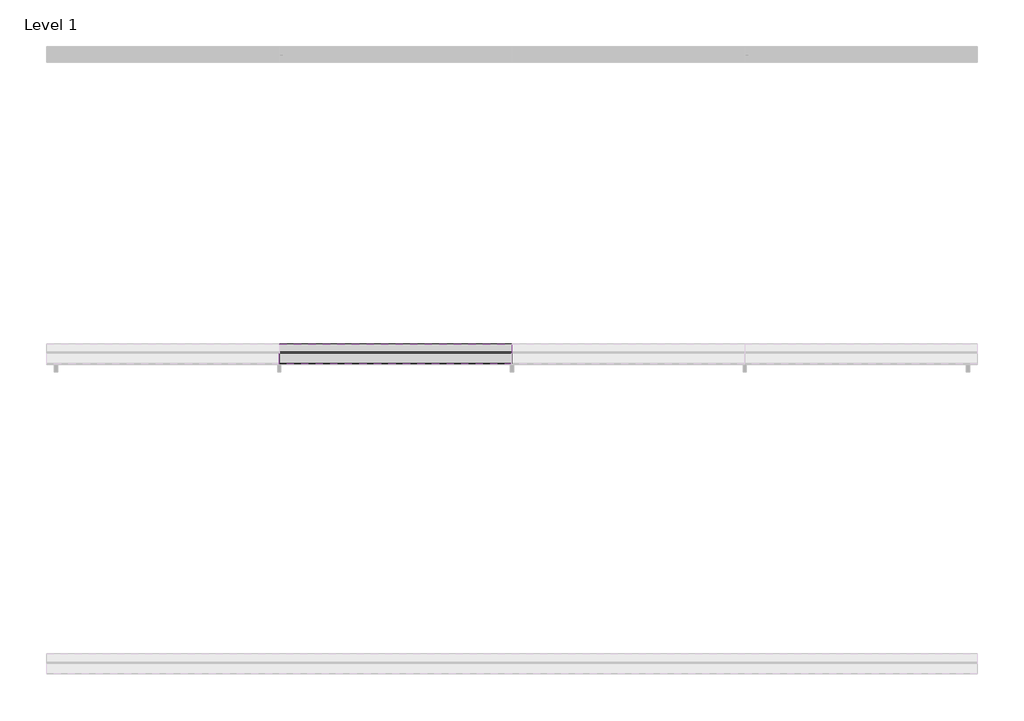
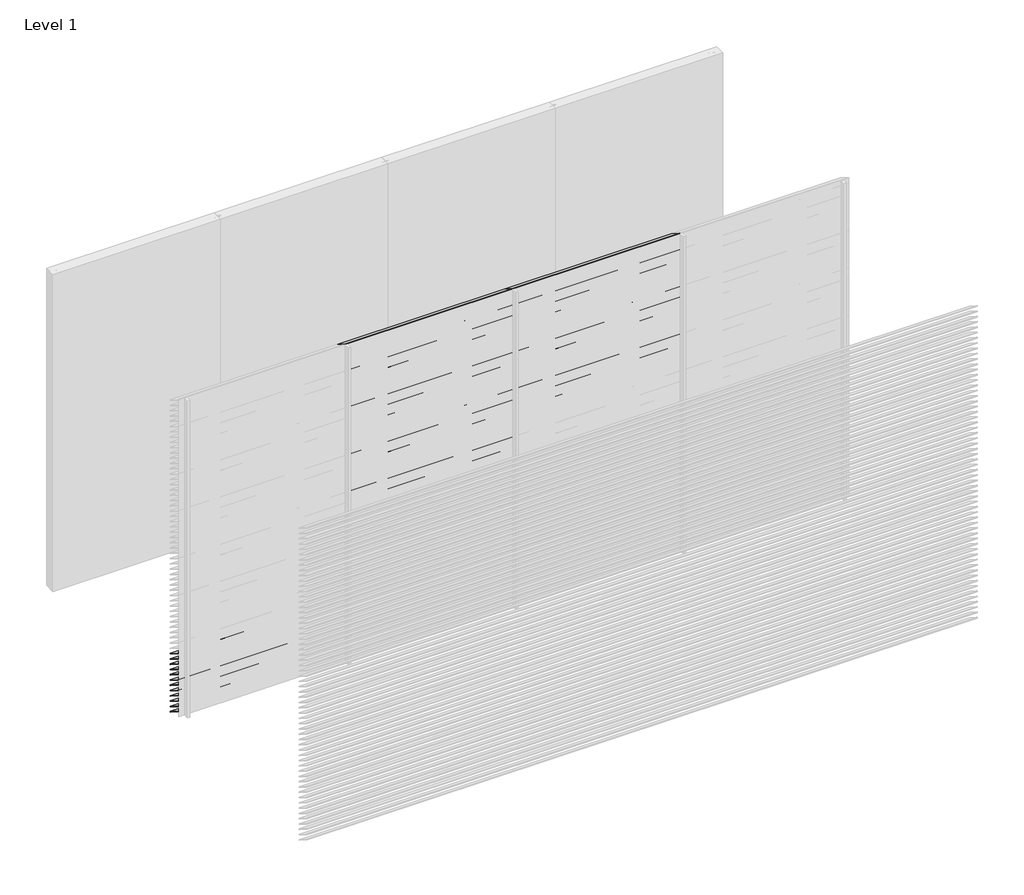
# One storey, part 9 of 13: 96 proxies.
"""IFC4 building model written with IfcOpenShell, lengths in millimetres."""

from ifc_helpers import new_model, si_unit, frame, origin, place, context, project, spatial, polyline, outline, extrude, element, save

model = new_model("IFC4")

# Units and contexts
model_context = context("Model", 3, world=origin())
ifc_project = project(units=[si_unit("LENGTHUNIT", "METRE", prefix="MILLI")], contexts=[model_context])

# Site, building, storey
site = spatial("IfcSite", under=ifc_project)
building = spatial("IfcBuilding", under=site)
storey = spatial("IfcBuildingStorey", under=building, Name="Level 1", Elevation=0.0)

# Proxies
placement = place(None, origin())
element("IfcBuildingElementProxy", 1, Name="Wall Sweeps", at=placement, inside=storey, context=model_context, shape_type="SweptSolid", body=[
    extrude(outline(polyline([(-5995.0, 600.0), (-5995.0, 598.0), (-5868.0, 519.0), (-5868.0, 513.0), (-5997.0, 593.2440945), (-5997.0, 600.0), (-5995.0, 600.0)])), frame((0.0, 0.0, 0.0), z_axis=(1.0, 0.0, 0.0), x_axis=(0.0, 1.0, 0.0)), (0.0, 0.0, 1.0), 1500.0),
])
element("IfcBuildingElementProxy", 2, Name="Wall Sweeps", at=placement, inside=storey, context=model_context, shape_type="SweptSolid", body=[
    extrude(outline(polyline([(-5995.0, 550.0), (-5995.0, 548.0), (-5868.0, 469.0), (-5868.0, 463.0), (-5997.0, 543.2440945), (-5997.0, 550.0), (-5995.0, 550.0)])), frame((0.0, 0.0, 0.0), z_axis=(1.0, 0.0, 0.0), x_axis=(0.0, 1.0, 0.0)), (0.0, 0.0, 1.0), 1500.0),
])
element("IfcBuildingElementProxy", 3, Name="Wall Sweeps", at=placement, inside=storey, context=model_context, shape_type="SweptSolid", body=[
    extrude(outline(polyline([(-5995.0, 500.0), (-5995.0, 498.0), (-5868.0, 419.0), (-5868.0, 413.0), (-5997.0, 493.2440945), (-5997.0, 500.0), (-5995.0, 500.0)])), frame((0.0, 0.0, 0.0), z_axis=(1.0, 0.0, 0.0), x_axis=(0.0, 1.0, 0.0)), (0.0, 0.0, 1.0), 1500.0),
])
element("IfcBuildingElementProxy", 4, Name="Wall Sweeps", at=placement, inside=storey, context=model_context, shape_type="SweptSolid", body=[
    extrude(outline(polyline([(-5995.0, 450.0), (-5995.0, 448.0), (-5868.0, 369.0), (-5868.0, 363.0), (-5997.0, 443.2440945), (-5997.0, 450.0), (-5995.0, 450.0)])), frame((0.0, 0.0, 0.0), z_axis=(1.0, 0.0, 0.0), x_axis=(0.0, 1.0, 0.0)), (0.0, 0.0, 1.0), 1500.0),
])
element("IfcBuildingElementProxy", 5, Name="Wall Sweeps", at=placement, inside=storey, context=model_context, shape_type="SweptSolid", body=[
    extrude(outline(polyline([(-5995.0, 400.0), (-5995.0, 398.0), (-5868.0, 319.0), (-5868.0, 313.0), (-5997.0, 393.2440945), (-5997.0, 400.0), (-5995.0, 400.0)])), frame((0.0, 0.0, 0.0), z_axis=(1.0, 0.0, 0.0), x_axis=(0.0, 1.0, 0.0)), (0.0, 0.0, 1.0), 1500.0),
])
element("IfcBuildingElementProxy", 6, Name="Wall Sweeps", at=placement, inside=storey, context=model_context, shape_type="SweptSolid", body=[
    extrude(outline(polyline([(-5995.0, 350.0), (-5995.0, 348.0), (-5868.0, 269.0), (-5868.0, 263.0), (-5997.0, 343.2440945), (-5997.0, 350.0), (-5995.0, 350.0)])), frame((0.0, 0.0, 0.0), z_axis=(1.0, 0.0, 0.0), x_axis=(0.0, 1.0, 0.0)), (0.0, 0.0, 1.0), 1500.0),
])
element("IfcBuildingElementProxy", 7, Name="Wall Sweeps", at=placement, inside=storey, context=model_context, shape_type="SweptSolid", body=[
    extrude(outline(polyline([(-5995.0, 300.0), (-5995.0, 298.0), (-5868.0, 219.0), (-5868.0, 213.0), (-5997.0, 293.2440945), (-5997.0, 300.0), (-5995.0, 300.0)])), frame((0.0, 0.0, 0.0), z_axis=(1.0, 0.0, 0.0), x_axis=(0.0, 1.0, 0.0)), (0.0, 0.0, 1.0), 1500.0),
])
element("IfcBuildingElementProxy", 8, Name="Wall Sweeps", at=placement, inside=storey, context=model_context, shape_type="SweptSolid", body=[
    extrude(outline(polyline([(-5995.0, 250.0), (-5995.0, 248.0), (-5868.0, 169.0), (-5868.0, 163.0), (-5997.0, 243.2440945), (-5997.0, 250.0), (-5995.0, 250.0)])), frame((0.0, 0.0, 0.0), z_axis=(1.0, 0.0, 0.0), x_axis=(0.0, 1.0, 0.0)), (0.0, 0.0, 1.0), 1500.0),
])
element("IfcBuildingElementProxy", 9, Name="Wall Sweeps", at=placement, inside=storey, context=model_context, shape_type="SweptSolid", body=[
    extrude(outline(polyline([(-5995.0, 200.0), (-5995.0, 198.0), (-5868.0, 119.0), (-5868.0, 113.0), (-5997.0, 193.2440945), (-5997.0, 200.0), (-5995.0, 200.0)])), frame((0.0, 0.0, 0.0), z_axis=(1.0, 0.0, 0.0), x_axis=(0.0, 1.0, 0.0)), (0.0, 0.0, 1.0), 1500.0),
])
element("IfcBuildingElementProxy", 10, Name="Wall Sweeps", at=placement, inside=storey, context=model_context, shape_type="SweptSolid", body=[
    extrude(outline(polyline([(-5995.0, 150.0), (-5995.0, 148.0), (-5868.0, 69.0), (-5868.0, 63.0), (-5997.0, 143.2440945), (-5997.0, 150.0), (-5995.0, 150.0)])), frame((0.0, 0.0, 0.0), z_axis=(1.0, 0.0, 0.0), x_axis=(0.0, 1.0, 0.0)), (0.0, 0.0, 1.0), 1500.0),
])
element("IfcBuildingElementProxy", 11, Name="Wall Sweeps", at=placement, inside=storey, context=model_context, shape_type="SweptSolid", body=[
    extrude(outline(polyline([(-5995.0, 100.0), (-5995.0, 98.0), (-5868.0, 19.0), (-5868.0, 13.0), (-5997.0, 93.2440945), (-5997.0, 100.0), (-5995.0, 100.0)])), frame((0.0, 0.0, 0.0), z_axis=(1.0, 0.0, 0.0), x_axis=(0.0, 1.0, 0.0)), (0.0, 0.0, 1.0), 1500.0),
])
element("IfcBuildingElementProxy", 12, Name="Wall Sweeps", at=placement, inside=storey, context=model_context, shape_type="SweptSolid", body=[
    extrude(outline(polyline([(-5995.0, 50.0), (-5995.0, 48.0), (-5868.0, -31.0), (-5868.0, -37.0), (-5997.0, 43.2440945), (-5997.0, 50.0), (-5995.0, 50.0)])), frame((0.0, 0.0, 0.0), z_axis=(1.0, 0.0, 0.0), x_axis=(0.0, 1.0, 0.0)), (0.0, 0.0, 1.0), 1500.0),
])
element("IfcBuildingElementProxy", 13, Name="Wall Sweeps", at=placement, inside=storey, context=model_context, shape_type="SweptSolid", body=[
    extrude(outline(polyline([(-5995.0, 3000.0), (-5995.0, 2998.0), (-5868.0, 2919.0), (-5868.0, 2913.0), (-5997.0, 2993.2440945), (-5997.0, 3000.0), (-5995.0, 3000.0)])), frame((1500.0, 0.0, 0.0), z_axis=(1.0, 0.0, 0.0), x_axis=(0.0, 1.0, 0.0)), (0.0, 0.0, 1.0), 1500.0),
])
element("IfcBuildingElementProxy", 14, Name="Wall Sweeps", at=placement, inside=storey, context=model_context, shape_type="SweptSolid", body=[
    extrude(outline(polyline([(-5995.0, 2950.0), (-5995.0, 2948.0), (-5868.0, 2869.0), (-5868.0, 2863.0), (-5997.0, 2943.2440945), (-5997.0, 2950.0), (-5995.0, 2950.0)])), frame((1500.0, 0.0, 0.0), z_axis=(1.0, 0.0, 0.0), x_axis=(0.0, 1.0, 0.0)), (0.0, 0.0, 1.0), 1500.0),
])
element("IfcBuildingElementProxy", 15, Name="Wall Sweeps", at=placement, inside=storey, context=model_context, shape_type="SweptSolid", body=[
    extrude(outline(polyline([(-5995.0, 2900.0), (-5995.0, 2898.0), (-5868.0, 2819.0), (-5868.0, 2813.0), (-5997.0, 2893.2440945), (-5997.0, 2900.0), (-5995.0, 2900.0)])), frame((1500.0, 0.0, 0.0), z_axis=(1.0, 0.0, 0.0), x_axis=(0.0, 1.0, 0.0)), (0.0, 0.0, 1.0), 1500.0),
])
element("IfcBuildingElementProxy", 16, Name="Wall Sweeps", at=placement, inside=storey, context=model_context, shape_type="SweptSolid", body=[
    extrude(outline(polyline([(-5995.0, 2850.0), (-5995.0, 2848.0), (-5868.0, 2769.0), (-5868.0, 2763.0), (-5997.0, 2843.2440945), (-5997.0, 2850.0), (-5995.0, 2850.0)])), frame((1500.0, 0.0, 0.0), z_axis=(1.0, 0.0, 0.0), x_axis=(0.0, 1.0, 0.0)), (0.0, 0.0, 1.0), 1500.0),
])
element("IfcBuildingElementProxy", 17, Name="Wall Sweeps", at=placement, inside=storey, context=model_context, shape_type="SweptSolid", body=[
    extrude(outline(polyline([(-5995.0, 2800.0), (-5995.0, 2798.0), (-5868.0, 2719.0), (-5868.0, 2713.0), (-5997.0, 2793.2440945), (-5997.0, 2800.0), (-5995.0, 2800.0)])), frame((1500.0, 0.0, 0.0), z_axis=(1.0, 0.0, 0.0), x_axis=(0.0, 1.0, 0.0)), (0.0, 0.0, 1.0), 1500.0),
])
element("IfcBuildingElementProxy", 18, Name="Wall Sweeps", at=placement, inside=storey, context=model_context, shape_type="SweptSolid", body=[
    extrude(outline(polyline([(-5995.0, 2750.0), (-5995.0, 2748.0), (-5868.0, 2669.0), (-5868.0, 2663.0), (-5997.0, 2743.2440945), (-5997.0, 2750.0), (-5995.0, 2750.0)])), frame((1500.0, 0.0, 0.0), z_axis=(1.0, 0.0, 0.0), x_axis=(0.0, 1.0, 0.0)), (0.0, 0.0, 1.0), 1500.0),
])
element("IfcBuildingElementProxy", 19, Name="Wall Sweeps", at=placement, inside=storey, context=model_context, shape_type="SweptSolid", body=[
    extrude(outline(polyline([(-5995.0, 2700.0), (-5995.0, 2698.0), (-5868.0, 2619.0), (-5868.0, 2613.0), (-5997.0, 2693.2440945), (-5997.0, 2700.0), (-5995.0, 2700.0)])), frame((1500.0, 0.0, 0.0), z_axis=(1.0, 0.0, 0.0), x_axis=(0.0, 1.0, 0.0)), (0.0, 0.0, 1.0), 1500.0),
])
element("IfcBuildingElementProxy", 20, Name="Wall Sweeps", at=placement, inside=storey, context=model_context, shape_type="SweptSolid", body=[
    extrude(outline(polyline([(-5995.0, 2650.0), (-5995.0, 2648.0), (-5868.0, 2569.0), (-5868.0, 2563.0), (-5997.0, 2643.2440945), (-5997.0, 2650.0), (-5995.0, 2650.0)])), frame((1500.0, 0.0, 0.0), z_axis=(1.0, 0.0, 0.0), x_axis=(0.0, 1.0, 0.0)), (0.0, 0.0, 1.0), 1500.0),
])
element("IfcBuildingElementProxy", 21, Name="Wall Sweeps", at=placement, inside=storey, context=model_context, shape_type="SweptSolid", body=[
    extrude(outline(polyline([(-5995.0, 2600.0), (-5995.0, 2598.0), (-5868.0, 2519.0), (-5868.0, 2513.0), (-5997.0, 2593.2440945), (-5997.0, 2600.0), (-5995.0, 2600.0)])), frame((1500.0, 0.0, 0.0), z_axis=(1.0, 0.0, 0.0), x_axis=(0.0, 1.0, 0.0)), (0.0, 0.0, 1.0), 1500.0),
])
element("IfcBuildingElementProxy", 22, Name="Wall Sweeps", at=placement, inside=storey, context=model_context, shape_type="SweptSolid", body=[
    extrude(outline(polyline([(-5995.0, 2550.0), (-5995.0, 2548.0), (-5868.0, 2469.0), (-5868.0, 2463.0), (-5997.0, 2543.2440945), (-5997.0, 2550.0), (-5995.0, 2550.0)])), frame((1500.0, 0.0, 0.0), z_axis=(1.0, 0.0, 0.0), x_axis=(0.0, 1.0, 0.0)), (0.0, 0.0, 1.0), 1500.0),
])
element("IfcBuildingElementProxy", 23, Name="Wall Sweeps", at=placement, inside=storey, context=model_context, shape_type="SweptSolid", body=[
    extrude(outline(polyline([(-5995.0, 2500.0), (-5995.0, 2498.0), (-5868.0, 2419.0), (-5868.0, 2413.0), (-5997.0, 2493.2440945), (-5997.0, 2500.0), (-5995.0, 2500.0)])), frame((1500.0, 0.0, 0.0), z_axis=(1.0, 0.0, 0.0), x_axis=(0.0, 1.0, 0.0)), (0.0, 0.0, 1.0), 1500.0),
])
element("IfcBuildingElementProxy", 24, Name="Wall Sweeps", at=placement, inside=storey, context=model_context, shape_type="SweptSolid", body=[
    extrude(outline(polyline([(-5995.0, 2450.0), (-5995.0, 2448.0), (-5868.0, 2369.0), (-5868.0, 2363.0), (-5997.0, 2443.2440945), (-5997.0, 2450.0), (-5995.0, 2450.0)])), frame((1500.0, 0.0, 0.0), z_axis=(1.0, 0.0, 0.0), x_axis=(0.0, 1.0, 0.0)), (0.0, 0.0, 1.0), 1500.0),
])
element("IfcBuildingElementProxy", 25, Name="Wall Sweeps", at=placement, inside=storey, context=model_context, shape_type="SweptSolid", body=[
    extrude(outline(polyline([(-5995.0, 2400.0), (-5995.0, 2398.0), (-5868.0, 2319.0), (-5868.0, 2313.0), (-5997.0, 2393.2440945), (-5997.0, 2400.0), (-5995.0, 2400.0)])), frame((1500.0, 0.0, 0.0), z_axis=(1.0, 0.0, 0.0), x_axis=(0.0, 1.0, 0.0)), (0.0, 0.0, 1.0), 1500.0),
])
element("IfcBuildingElementProxy", 26, Name="Wall Sweeps", at=placement, inside=storey, context=model_context, shape_type="SweptSolid", body=[
    extrude(outline(polyline([(-5995.0, 2350.0), (-5995.0, 2348.0), (-5868.0, 2269.0), (-5868.0, 2263.0), (-5997.0, 2343.2440945), (-5997.0, 2350.0), (-5995.0, 2350.0)])), frame((1500.0, 0.0, 0.0), z_axis=(1.0, 0.0, 0.0), x_axis=(0.0, 1.0, 0.0)), (0.0, 0.0, 1.0), 1500.0),
])
element("IfcBuildingElementProxy", 27, Name="Wall Sweeps", at=placement, inside=storey, context=model_context, shape_type="SweptSolid", body=[
    extrude(outline(polyline([(-5995.0, 2300.0), (-5995.0, 2298.0), (-5868.0, 2219.0), (-5868.0, 2213.0), (-5997.0, 2293.2440945), (-5997.0, 2300.0), (-5995.0, 2300.0)])), frame((1500.0, 0.0, 0.0), z_axis=(1.0, 0.0, 0.0), x_axis=(0.0, 1.0, 0.0)), (0.0, 0.0, 1.0), 1500.0),
])
element("IfcBuildingElementProxy", 28, Name="Wall Sweeps", at=placement, inside=storey, context=model_context, shape_type="SweptSolid", body=[
    extrude(outline(polyline([(-5995.0, 2250.0), (-5995.0, 2248.0), (-5868.0, 2169.0), (-5868.0, 2163.0), (-5997.0, 2243.2440945), (-5997.0, 2250.0), (-5995.0, 2250.0)])), frame((1500.0, 0.0, 0.0), z_axis=(1.0, 0.0, 0.0), x_axis=(0.0, 1.0, 0.0)), (0.0, 0.0, 1.0), 1500.0),
])
element("IfcBuildingElementProxy", 29, Name="Wall Sweeps", at=placement, inside=storey, context=model_context, shape_type="SweptSolid", body=[
    extrude(outline(polyline([(-5995.0, 2200.0), (-5995.0, 2198.0), (-5868.0, 2119.0), (-5868.0, 2113.0), (-5997.0, 2193.2440945), (-5997.0, 2200.0), (-5995.0, 2200.0)])), frame((1500.0, 0.0, 0.0), z_axis=(1.0, 0.0, 0.0), x_axis=(0.0, 1.0, 0.0)), (0.0, 0.0, 1.0), 1500.0),
])
element("IfcBuildingElementProxy", 30, Name="Wall Sweeps", at=placement, inside=storey, context=model_context, shape_type="SweptSolid", body=[
    extrude(outline(polyline([(-5995.0, 2150.0), (-5995.0, 2148.0), (-5868.0, 2069.0), (-5868.0, 2063.0), (-5997.0, 2143.2440945), (-5997.0, 2150.0), (-5995.0, 2150.0)])), frame((1500.0, 0.0, 0.0), z_axis=(1.0, 0.0, 0.0), x_axis=(0.0, 1.0, 0.0)), (0.0, 0.0, 1.0), 1500.0),
])
element("IfcBuildingElementProxy", 31, Name="Wall Sweeps", at=placement, inside=storey, context=model_context, shape_type="SweptSolid", body=[
    extrude(outline(polyline([(-5995.0, 2100.0), (-5995.0, 2098.0), (-5868.0, 2019.0), (-5868.0, 2013.0), (-5997.0, 2093.2440945), (-5997.0, 2100.0), (-5995.0, 2100.0)])), frame((1500.0, 0.0, 0.0), z_axis=(1.0, 0.0, 0.0), x_axis=(0.0, 1.0, 0.0)), (0.0, 0.0, 1.0), 1500.0),
])
element("IfcBuildingElementProxy", 32, Name="Wall Sweeps", at=placement, inside=storey, context=model_context, shape_type="SweptSolid", body=[
    extrude(outline(polyline([(-5995.0, 2050.0), (-5995.0, 2048.0), (-5868.0, 1969.0), (-5868.0, 1963.0), (-5997.0, 2043.2440945), (-5997.0, 2050.0), (-5995.0, 2050.0)])), frame((1500.0, 0.0, 0.0), z_axis=(1.0, 0.0, 0.0), x_axis=(0.0, 1.0, 0.0)), (0.0, 0.0, 1.0), 1500.0),
])
element("IfcBuildingElementProxy", 33, Name="Wall Sweeps", at=placement, inside=storey, context=model_context, shape_type="SweptSolid", body=[
    extrude(outline(polyline([(-5995.0, 2000.0), (-5995.0, 1998.0), (-5868.0, 1919.0), (-5868.0, 1913.0), (-5997.0, 1993.2440945), (-5997.0, 2000.0), (-5995.0, 2000.0)])), frame((1500.0, 0.0, 0.0), z_axis=(1.0, 0.0, 0.0), x_axis=(0.0, 1.0, 0.0)), (0.0, 0.0, 1.0), 1500.0),
])
element("IfcBuildingElementProxy", 34, Name="Wall Sweeps", at=placement, inside=storey, context=model_context, shape_type="SweptSolid", body=[
    extrude(outline(polyline([(-5995.0, 1950.0), (-5995.0, 1948.0), (-5868.0, 1869.0), (-5868.0, 1863.0), (-5997.0, 1943.2440945), (-5997.0, 1950.0), (-5995.0, 1950.0)])), frame((1500.0, 0.0, 0.0), z_axis=(1.0, 0.0, 0.0), x_axis=(0.0, 1.0, 0.0)), (0.0, 0.0, 1.0), 1500.0),
])
element("IfcBuildingElementProxy", 35, Name="Wall Sweeps", at=placement, inside=storey, context=model_context, shape_type="SweptSolid", body=[
    extrude(outline(polyline([(-5995.0, 1900.0), (-5995.0, 1898.0), (-5868.0, 1819.0), (-5868.0, 1813.0), (-5997.0, 1893.2440945), (-5997.0, 1900.0), (-5995.0, 1900.0)])), frame((1500.0, 0.0, 0.0), z_axis=(1.0, 0.0, 0.0), x_axis=(0.0, 1.0, 0.0)), (0.0, 0.0, 1.0), 1500.0),
])
element("IfcBuildingElementProxy", 36, Name="Wall Sweeps", at=placement, inside=storey, context=model_context, shape_type="SweptSolid", body=[
    extrude(outline(polyline([(-5995.0, 1850.0), (-5995.0, 1848.0), (-5868.0, 1769.0), (-5868.0, 1763.0), (-5997.0, 1843.2440945), (-5997.0, 1850.0), (-5995.0, 1850.0)])), frame((1500.0, 0.0, 0.0), z_axis=(1.0, 0.0, 0.0), x_axis=(0.0, 1.0, 0.0)), (0.0, 0.0, 1.0), 1500.0),
])
element("IfcBuildingElementProxy", 37, Name="Wall Sweeps", at=placement, inside=storey, context=model_context, shape_type="SweptSolid", body=[
    extrude(outline(polyline([(-5995.0, 1800.0), (-5995.0, 1798.0), (-5868.0, 1719.0), (-5868.0, 1713.0), (-5997.0, 1793.2440945), (-5997.0, 1800.0), (-5995.0, 1800.0)])), frame((1500.0, 0.0, 0.0), z_axis=(1.0, 0.0, 0.0), x_axis=(0.0, 1.0, 0.0)), (0.0, 0.0, 1.0), 1500.0),
])
element("IfcBuildingElementProxy", 38, Name="Wall Sweeps", at=placement, inside=storey, context=model_context, shape_type="SweptSolid", body=[
    extrude(outline(polyline([(-5995.0, 1750.0), (-5995.0, 1748.0), (-5868.0, 1669.0), (-5868.0, 1663.0), (-5997.0, 1743.2440945), (-5997.0, 1750.0), (-5995.0, 1750.0)])), frame((1500.0, 0.0, 0.0), z_axis=(1.0, 0.0, 0.0), x_axis=(0.0, 1.0, 0.0)), (0.0, 0.0, 1.0), 1500.0),
])
element("IfcBuildingElementProxy", 39, Name="Wall Sweeps", at=placement, inside=storey, context=model_context, shape_type="SweptSolid", body=[
    extrude(outline(polyline([(-5995.0, 1700.0), (-5995.0, 1698.0), (-5868.0, 1619.0), (-5868.0, 1613.0), (-5997.0, 1693.2440945), (-5997.0, 1700.0), (-5995.0, 1700.0)])), frame((1500.0, 0.0, 0.0), z_axis=(1.0, 0.0, 0.0), x_axis=(0.0, 1.0, 0.0)), (0.0, 0.0, 1.0), 1500.0),
])
element("IfcBuildingElementProxy", 40, Name="Wall Sweeps", at=placement, inside=storey, context=model_context, shape_type="SweptSolid", body=[
    extrude(outline(polyline([(-5995.0, 1650.0), (-5995.0, 1648.0), (-5868.0, 1569.0), (-5868.0, 1563.0), (-5997.0, 1643.2440945), (-5997.0, 1650.0), (-5995.0, 1650.0)])), frame((1500.0, 0.0, 0.0), z_axis=(1.0, 0.0, 0.0), x_axis=(0.0, 1.0, 0.0)), (0.0, 0.0, 1.0), 1500.0),
])
element("IfcBuildingElementProxy", 41, Name="Wall Sweeps", at=placement, inside=storey, context=model_context, shape_type="SweptSolid", body=[
    extrude(outline(polyline([(-5995.0, 1600.0), (-5995.0, 1598.0), (-5868.0, 1519.0), (-5868.0, 1513.0), (-5997.0, 1593.2440945), (-5997.0, 1600.0), (-5995.0, 1600.0)])), frame((1500.0, 0.0, 0.0), z_axis=(1.0, 0.0, 0.0), x_axis=(0.0, 1.0, 0.0)), (0.0, 0.0, 1.0), 1500.0),
])
element("IfcBuildingElementProxy", 42, Name="Wall Sweeps", at=placement, inside=storey, context=model_context, shape_type="SweptSolid", body=[
    extrude(outline(polyline([(-5995.0, 1550.0), (-5995.0, 1548.0), (-5868.0, 1469.0), (-5868.0, 1463.0), (-5997.0, 1543.2440945), (-5997.0, 1550.0), (-5995.0, 1550.0)])), frame((1500.0, 0.0, 0.0), z_axis=(1.0, 0.0, 0.0), x_axis=(0.0, 1.0, 0.0)), (0.0, 0.0, 1.0), 1500.0),
])
element("IfcBuildingElementProxy", 43, Name="Wall Sweeps", at=placement, inside=storey, context=model_context, shape_type="SweptSolid", body=[
    extrude(outline(polyline([(-5995.0, 1500.0), (-5995.0, 1498.0), (-5868.0, 1419.0), (-5868.0, 1413.0), (-5997.0, 1493.2440945), (-5997.0, 1500.0), (-5995.0, 1500.0)])), frame((1500.0, 0.0, 0.0), z_axis=(1.0, 0.0, 0.0), x_axis=(0.0, 1.0, 0.0)), (0.0, 0.0, 1.0), 1500.0),
])
element("IfcBuildingElementProxy", 44, Name="Wall Sweeps", at=placement, inside=storey, context=model_context, shape_type="SweptSolid", body=[
    extrude(outline(polyline([(-5995.0, 1450.0), (-5995.0, 1448.0), (-5868.0, 1369.0), (-5868.0, 1363.0), (-5997.0, 1443.2440945), (-5997.0, 1450.0), (-5995.0, 1450.0)])), frame((1500.0, 0.0, 0.0), z_axis=(1.0, 0.0, 0.0), x_axis=(0.0, 1.0, 0.0)), (0.0, 0.0, 1.0), 1500.0),
])
element("IfcBuildingElementProxy", 45, Name="Wall Sweeps", at=placement, inside=storey, context=model_context, shape_type="SweptSolid", body=[
    extrude(outline(polyline([(-5995.0, 1400.0), (-5995.0, 1398.0), (-5868.0, 1319.0), (-5868.0, 1313.0), (-5997.0, 1393.2440945), (-5997.0, 1400.0), (-5995.0, 1400.0)])), frame((1500.0, 0.0, 0.0), z_axis=(1.0, 0.0, 0.0), x_axis=(0.0, 1.0, 0.0)), (0.0, 0.0, 1.0), 1500.0),
])
element("IfcBuildingElementProxy", 46, Name="Wall Sweeps", at=placement, inside=storey, context=model_context, shape_type="SweptSolid", body=[
    extrude(outline(polyline([(-5995.0, 1350.0), (-5995.0, 1348.0), (-5868.0, 1269.0), (-5868.0, 1263.0), (-5997.0, 1343.2440945), (-5997.0, 1350.0), (-5995.0, 1350.0)])), frame((1500.0, 0.0, 0.0), z_axis=(1.0, 0.0, 0.0), x_axis=(0.0, 1.0, 0.0)), (0.0, 0.0, 1.0), 1500.0),
])
element("IfcBuildingElementProxy", 47, Name="Wall Sweeps", at=placement, inside=storey, context=model_context, shape_type="SweptSolid", body=[
    extrude(outline(polyline([(-5995.0, 1300.0), (-5995.0, 1298.0), (-5868.0, 1219.0), (-5868.0, 1213.0), (-5997.0, 1293.2440945), (-5997.0, 1300.0), (-5995.0, 1300.0)])), frame((1500.0, 0.0, 0.0), z_axis=(1.0, 0.0, 0.0), x_axis=(0.0, 1.0, 0.0)), (0.0, 0.0, 1.0), 1500.0),
])
element("IfcBuildingElementProxy", 48, Name="Wall Sweeps", at=placement, inside=storey, context=model_context, shape_type="SweptSolid", body=[
    extrude(outline(polyline([(-5995.0, 1250.0), (-5995.0, 1248.0), (-5868.0, 1169.0), (-5868.0, 1163.0), (-5997.0, 1243.2440945), (-5997.0, 1250.0), (-5995.0, 1250.0)])), frame((1500.0, 0.0, 0.0), z_axis=(1.0, 0.0, 0.0), x_axis=(0.0, 1.0, 0.0)), (0.0, 0.0, 1.0), 1500.0),
])
element("IfcBuildingElementProxy", 49, Name="Wall Sweeps", at=placement, inside=storey, context=model_context, shape_type="SweptSolid", body=[
    extrude(outline(polyline([(-5995.0, 1200.0), (-5995.0, 1198.0), (-5868.0, 1119.0), (-5868.0, 1113.0), (-5997.0, 1193.2440945), (-5997.0, 1200.0), (-5995.0, 1200.0)])), frame((1500.0, 0.0, 0.0), z_axis=(1.0, 0.0, 0.0), x_axis=(0.0, 1.0, 0.0)), (0.0, 0.0, 1.0), 1500.0),
])
element("IfcBuildingElementProxy", 50, Name="Wall Sweeps", at=placement, inside=storey, context=model_context, shape_type="SweptSolid", body=[
    extrude(outline(polyline([(-5995.0, 1150.0), (-5995.0, 1148.0), (-5868.0, 1069.0), (-5868.0, 1063.0), (-5997.0, 1143.2440945), (-5997.0, 1150.0), (-5995.0, 1150.0)])), frame((1500.0, 0.0, 0.0), z_axis=(1.0, 0.0, 0.0), x_axis=(0.0, 1.0, 0.0)), (0.0, 0.0, 1.0), 1500.0),
])
element("IfcBuildingElementProxy", 51, Name="Wall Sweeps", at=placement, inside=storey, context=model_context, shape_type="SweptSolid", body=[
    extrude(outline(polyline([(-5995.0, 1100.0), (-5995.0, 1098.0), (-5868.0, 1019.0), (-5868.0, 1013.0), (-5997.0, 1093.2440945), (-5997.0, 1100.0), (-5995.0, 1100.0)])), frame((1500.0, 0.0, 0.0), z_axis=(1.0, 0.0, 0.0), x_axis=(0.0, 1.0, 0.0)), (0.0, 0.0, 1.0), 1500.0),
])
element("IfcBuildingElementProxy", 52, Name="Wall Sweeps", at=placement, inside=storey, context=model_context, shape_type="SweptSolid", body=[
    extrude(outline(polyline([(-5995.0, 1050.0), (-5995.0, 1048.0), (-5868.0, 969.0), (-5868.0, 963.0), (-5997.0, 1043.2440945), (-5997.0, 1050.0), (-5995.0, 1050.0)])), frame((1500.0, 0.0, 0.0), z_axis=(1.0, 0.0, 0.0), x_axis=(0.0, 1.0, 0.0)), (0.0, 0.0, 1.0), 1500.0),
])
element("IfcBuildingElementProxy", 53, Name="Wall Sweeps", at=placement, inside=storey, context=model_context, shape_type="SweptSolid", body=[
    extrude(outline(polyline([(-5995.0, 1000.0), (-5995.0, 998.0), (-5868.0, 919.0), (-5868.0, 913.0), (-5997.0, 993.2440945), (-5997.0, 1000.0), (-5995.0, 1000.0)])), frame((1500.0, 0.0, 0.0), z_axis=(1.0, 0.0, 0.0), x_axis=(0.0, 1.0, 0.0)), (0.0, 0.0, 1.0), 1500.0),
])
element("IfcBuildingElementProxy", 54, Name="Wall Sweeps", at=placement, inside=storey, context=model_context, shape_type="SweptSolid", body=[
    extrude(outline(polyline([(-5995.0, 950.0), (-5995.0, 948.0), (-5868.0, 869.0), (-5868.0, 863.0), (-5997.0, 943.2440945), (-5997.0, 950.0), (-5995.0, 950.0)])), frame((1500.0, 0.0, 0.0), z_axis=(1.0, 0.0, 0.0), x_axis=(0.0, 1.0, 0.0)), (0.0, 0.0, 1.0), 1500.0),
])
element("IfcBuildingElementProxy", 55, Name="Wall Sweeps", at=placement, inside=storey, context=model_context, shape_type="SweptSolid", body=[
    extrude(outline(polyline([(-5995.0, 900.0), (-5995.0, 898.0), (-5868.0, 819.0), (-5868.0, 813.0), (-5997.0, 893.2440945), (-5997.0, 900.0), (-5995.0, 900.0)])), frame((1500.0, 0.0, 0.0), z_axis=(1.0, 0.0, 0.0), x_axis=(0.0, 1.0, 0.0)), (0.0, 0.0, 1.0), 1500.0),
])
element("IfcBuildingElementProxy", 56, Name="Wall Sweeps", at=placement, inside=storey, context=model_context, shape_type="SweptSolid", body=[
    extrude(outline(polyline([(-5995.0, 850.0), (-5995.0, 848.0), (-5868.0, 769.0), (-5868.0, 763.0), (-5997.0, 843.2440945), (-5997.0, 850.0), (-5995.0, 850.0)])), frame((1500.0, 0.0, 0.0), z_axis=(1.0, 0.0, 0.0), x_axis=(0.0, 1.0, 0.0)), (0.0, 0.0, 1.0), 1500.0),
])
element("IfcBuildingElementProxy", 57, Name="Wall Sweeps", at=placement, inside=storey, context=model_context, shape_type="SweptSolid", body=[
    extrude(outline(polyline([(-5995.0, 800.0), (-5995.0, 798.0), (-5868.0, 719.0), (-5868.0, 713.0), (-5997.0, 793.2440945), (-5997.0, 800.0), (-5995.0, 800.0)])), frame((1500.0, 0.0, 0.0), z_axis=(1.0, 0.0, 0.0), x_axis=(0.0, 1.0, 0.0)), (0.0, 0.0, 1.0), 1500.0),
])
element("IfcBuildingElementProxy", 58, Name="Wall Sweeps", at=placement, inside=storey, context=model_context, shape_type="SweptSolid", body=[
    extrude(outline(polyline([(-5995.0, 750.0), (-5995.0, 748.0), (-5868.0, 669.0), (-5868.0, 663.0), (-5997.0, 743.2440945), (-5997.0, 750.0), (-5995.0, 750.0)])), frame((1500.0, 0.0, 0.0), z_axis=(1.0, 0.0, 0.0), x_axis=(0.0, 1.0, 0.0)), (0.0, 0.0, 1.0), 1500.0),
])
element("IfcBuildingElementProxy", 59, Name="Wall Sweeps", at=placement, inside=storey, context=model_context, shape_type="SweptSolid", body=[
    extrude(outline(polyline([(-5995.0, 700.0), (-5995.0, 698.0), (-5868.0, 619.0), (-5868.0, 613.0), (-5997.0, 693.2440945), (-5997.0, 700.0), (-5995.0, 700.0)])), frame((1500.0, 0.0, 0.0), z_axis=(1.0, 0.0, 0.0), x_axis=(0.0, 1.0, 0.0)), (0.0, 0.0, 1.0), 1500.0),
])
element("IfcBuildingElementProxy", 60, Name="Wall Sweeps", at=placement, inside=storey, context=model_context, shape_type="SweptSolid", body=[
    extrude(outline(polyline([(-5995.0, 650.0), (-5995.0, 648.0), (-5868.0, 569.0), (-5868.0, 563.0), (-5997.0, 643.2440945), (-5997.0, 650.0), (-5995.0, 650.0)])), frame((1500.0, 0.0, 0.0), z_axis=(1.0, 0.0, 0.0), x_axis=(0.0, 1.0, 0.0)), (0.0, 0.0, 1.0), 1500.0),
])
element("IfcBuildingElementProxy", 61, Name="Wall Sweeps", at=placement, inside=storey, context=model_context, shape_type="SweptSolid", body=[
    extrude(outline(polyline([(-5995.0, 600.0), (-5995.0, 598.0), (-5868.0, 519.0), (-5868.0, 513.0), (-5997.0, 593.2440945), (-5997.0, 600.0), (-5995.0, 600.0)])), frame((1500.0, 0.0, 0.0), z_axis=(1.0, 0.0, 0.0), x_axis=(0.0, 1.0, 0.0)), (0.0, 0.0, 1.0), 1500.0),
])
element("IfcBuildingElementProxy", 62, Name="Wall Sweeps", at=placement, inside=storey, context=model_context, shape_type="SweptSolid", body=[
    extrude(outline(polyline([(-5995.0, 550.0), (-5995.0, 548.0), (-5868.0, 469.0), (-5868.0, 463.0), (-5997.0, 543.2440945), (-5997.0, 550.0), (-5995.0, 550.0)])), frame((1500.0, 0.0, 0.0), z_axis=(1.0, 0.0, 0.0), x_axis=(0.0, 1.0, 0.0)), (0.0, 0.0, 1.0), 1500.0),
])
element("IfcBuildingElementProxy", 63, Name="Wall Sweeps", at=placement, inside=storey, context=model_context, shape_type="SweptSolid", body=[
    extrude(outline(polyline([(-5995.0, 500.0), (-5995.0, 498.0), (-5868.0, 419.0), (-5868.0, 413.0), (-5997.0, 493.2440945), (-5997.0, 500.0), (-5995.0, 500.0)])), frame((1500.0, 0.0, 0.0), z_axis=(1.0, 0.0, 0.0), x_axis=(0.0, 1.0, 0.0)), (0.0, 0.0, 1.0), 1500.0),
])
element("IfcBuildingElementProxy", 64, Name="Wall Sweeps", at=placement, inside=storey, context=model_context, shape_type="SweptSolid", body=[
    extrude(outline(polyline([(-5995.0, 450.0), (-5995.0, 448.0), (-5868.0, 369.0), (-5868.0, 363.0), (-5997.0, 443.2440945), (-5997.0, 450.0), (-5995.0, 450.0)])), frame((1500.0, 0.0, 0.0), z_axis=(1.0, 0.0, 0.0), x_axis=(0.0, 1.0, 0.0)), (0.0, 0.0, 1.0), 1500.0),
])
element("IfcBuildingElementProxy", 65, Name="Wall Sweeps", at=placement, inside=storey, context=model_context, shape_type="SweptSolid", body=[
    extrude(outline(polyline([(-5995.0, 400.0), (-5995.0, 398.0), (-5868.0, 319.0), (-5868.0, 313.0), (-5997.0, 393.2440945), (-5997.0, 400.0), (-5995.0, 400.0)])), frame((1500.0, 0.0, 0.0), z_axis=(1.0, 0.0, 0.0), x_axis=(0.0, 1.0, 0.0)), (0.0, 0.0, 1.0), 1500.0),
])
element("IfcBuildingElementProxy", 66, Name="Wall Sweeps", at=placement, inside=storey, context=model_context, shape_type="SweptSolid", body=[
    extrude(outline(polyline([(-5995.0, 350.0), (-5995.0, 348.0), (-5868.0, 269.0), (-5868.0, 263.0), (-5997.0, 343.2440945), (-5997.0, 350.0), (-5995.0, 350.0)])), frame((1500.0, 0.0, 0.0), z_axis=(1.0, 0.0, 0.0), x_axis=(0.0, 1.0, 0.0)), (0.0, 0.0, 1.0), 1500.0),
])
element("IfcBuildingElementProxy", 67, Name="Wall Sweeps", at=placement, inside=storey, context=model_context, shape_type="SweptSolid", body=[
    extrude(outline(polyline([(-5995.0, 300.0), (-5995.0, 298.0), (-5868.0, 219.0), (-5868.0, 213.0), (-5997.0, 293.2440945), (-5997.0, 300.0), (-5995.0, 300.0)])), frame((1500.0, 0.0, 0.0), z_axis=(1.0, 0.0, 0.0), x_axis=(0.0, 1.0, 0.0)), (0.0, 0.0, 1.0), 1500.0),
])
element("IfcBuildingElementProxy", 68, Name="Wall Sweeps", at=placement, inside=storey, context=model_context, shape_type="SweptSolid", body=[
    extrude(outline(polyline([(-5995.0, 250.0), (-5995.0, 248.0), (-5868.0, 169.0), (-5868.0, 163.0), (-5997.0, 243.2440945), (-5997.0, 250.0), (-5995.0, 250.0)])), frame((1500.0, 0.0, 0.0), z_axis=(1.0, 0.0, 0.0), x_axis=(0.0, 1.0, 0.0)), (0.0, 0.0, 1.0), 1500.0),
])
element("IfcBuildingElementProxy", 69, Name="Wall Sweeps", at=placement, inside=storey, context=model_context, shape_type="SweptSolid", body=[
    extrude(outline(polyline([(-5995.0, 200.0), (-5995.0, 198.0), (-5868.0, 119.0), (-5868.0, 113.0), (-5997.0, 193.2440945), (-5997.0, 200.0), (-5995.0, 200.0)])), frame((1500.0, 0.0, 0.0), z_axis=(1.0, 0.0, 0.0), x_axis=(0.0, 1.0, 0.0)), (0.0, 0.0, 1.0), 1500.0),
])
element("IfcBuildingElementProxy", 70, Name="Wall Sweeps", at=placement, inside=storey, context=model_context, shape_type="SweptSolid", body=[
    extrude(outline(polyline([(-5995.0, 150.0), (-5995.0, 148.0), (-5868.0, 69.0), (-5868.0, 63.0), (-5997.0, 143.2440945), (-5997.0, 150.0), (-5995.0, 150.0)])), frame((1500.0, 0.0, 0.0), z_axis=(1.0, 0.0, 0.0), x_axis=(0.0, 1.0, 0.0)), (0.0, 0.0, 1.0), 1500.0),
])
element("IfcBuildingElementProxy", 71, Name="Wall Sweeps", at=placement, inside=storey, context=model_context, shape_type="SweptSolid", body=[
    extrude(outline(polyline([(-5995.0, 100.0), (-5995.0, 98.0), (-5868.0, 19.0), (-5868.0, 13.0), (-5997.0, 93.2440945), (-5997.0, 100.0), (-5995.0, 100.0)])), frame((1500.0, 0.0, 0.0), z_axis=(1.0, 0.0, 0.0), x_axis=(0.0, 1.0, 0.0)), (0.0, 0.0, 1.0), 1500.0),
])
element("IfcBuildingElementProxy", 72, Name="Wall Sweeps", at=placement, inside=storey, context=model_context, shape_type="SweptSolid", body=[
    extrude(outline(polyline([(-5995.0, 50.0), (-5995.0, 48.0), (-5868.0, -31.0), (-5868.0, -37.0), (-5997.0, 43.2440945), (-5997.0, 50.0), (-5995.0, 50.0)])), frame((1500.0, 0.0, 0.0), z_axis=(1.0, 0.0, 0.0), x_axis=(0.0, 1.0, 0.0)), (0.0, 0.0, 1.0), 1500.0),
])
element("IfcBuildingElementProxy", 73, Name="Wall Sweeps", at=placement, inside=storey, context=model_context, shape_type="SweptSolid", body=[
    extrude(outline(polyline([(-5995.0, 3000.0), (-5995.0, 2998.0), (-5868.0, 2919.0), (-5868.0, 2913.0), (-5997.0, 2993.2440945), (-5997.0, 3000.0), (-5995.0, 3000.0)])), frame((3000.0, 0.0, 0.0), z_axis=(1.0, 0.0, 0.0), x_axis=(0.0, 1.0, 0.0)), (0.0, 0.0, 1.0), 1500.0),
])
element("IfcBuildingElementProxy", 74, Name="Wall Sweeps", at=placement, inside=storey, context=model_context, shape_type="SweptSolid", body=[
    extrude(outline(polyline([(-5995.0, 2950.0), (-5995.0, 2948.0), (-5868.0, 2869.0), (-5868.0, 2863.0), (-5997.0, 2943.2440945), (-5997.0, 2950.0), (-5995.0, 2950.0)])), frame((3000.0, 0.0, 0.0), z_axis=(1.0, 0.0, 0.0), x_axis=(0.0, 1.0, 0.0)), (0.0, 0.0, 1.0), 1500.0),
])
element("IfcBuildingElementProxy", 75, Name="Wall Sweeps", at=placement, inside=storey, context=model_context, shape_type="SweptSolid", body=[
    extrude(outline(polyline([(-5995.0, 2900.0), (-5995.0, 2898.0), (-5868.0, 2819.0), (-5868.0, 2813.0), (-5997.0, 2893.2440945), (-5997.0, 2900.0), (-5995.0, 2900.0)])), frame((3000.0, 0.0, 0.0), z_axis=(1.0, 0.0, 0.0), x_axis=(0.0, 1.0, 0.0)), (0.0, 0.0, 1.0), 1500.0),
])
element("IfcBuildingElementProxy", 76, Name="Wall Sweeps", at=placement, inside=storey, context=model_context, shape_type="SweptSolid", body=[
    extrude(outline(polyline([(-5995.0, 2850.0), (-5995.0, 2848.0), (-5868.0, 2769.0), (-5868.0, 2763.0), (-5997.0, 2843.2440945), (-5997.0, 2850.0), (-5995.0, 2850.0)])), frame((3000.0, 0.0, 0.0), z_axis=(1.0, 0.0, 0.0), x_axis=(0.0, 1.0, 0.0)), (0.0, 0.0, 1.0), 1500.0),
])
element("IfcBuildingElementProxy", 77, Name="Wall Sweeps", at=placement, inside=storey, context=model_context, shape_type="SweptSolid", body=[
    extrude(outline(polyline([(-5995.0, 2800.0), (-5995.0, 2798.0), (-5868.0, 2719.0), (-5868.0, 2713.0), (-5997.0, 2793.2440945), (-5997.0, 2800.0), (-5995.0, 2800.0)])), frame((3000.0, 0.0, 0.0), z_axis=(1.0, 0.0, 0.0), x_axis=(0.0, 1.0, 0.0)), (0.0, 0.0, 1.0), 1500.0),
])
element("IfcBuildingElementProxy", 78, Name="Wall Sweeps", at=placement, inside=storey, context=model_context, shape_type="SweptSolid", body=[
    extrude(outline(polyline([(-5995.0, 2750.0), (-5995.0, 2748.0), (-5868.0, 2669.0), (-5868.0, 2663.0), (-5997.0, 2743.2440945), (-5997.0, 2750.0), (-5995.0, 2750.0)])), frame((3000.0, 0.0, 0.0), z_axis=(1.0, 0.0, 0.0), x_axis=(0.0, 1.0, 0.0)), (0.0, 0.0, 1.0), 1500.0),
])
element("IfcBuildingElementProxy", 79, Name="Wall Sweeps", at=placement, inside=storey, context=model_context, shape_type="SweptSolid", body=[
    extrude(outline(polyline([(-5995.0, 2700.0), (-5995.0, 2698.0), (-5868.0, 2619.0), (-5868.0, 2613.0), (-5997.0, 2693.2440945), (-5997.0, 2700.0), (-5995.0, 2700.0)])), frame((3000.0, 0.0, 0.0), z_axis=(1.0, 0.0, 0.0), x_axis=(0.0, 1.0, 0.0)), (0.0, 0.0, 1.0), 1500.0),
])
element("IfcBuildingElementProxy", 80, Name="Wall Sweeps", at=placement, inside=storey, context=model_context, shape_type="SweptSolid", body=[
    extrude(outline(polyline([(-5995.0, 2650.0), (-5995.0, 2648.0), (-5868.0, 2569.0), (-5868.0, 2563.0), (-5997.0, 2643.2440945), (-5997.0, 2650.0), (-5995.0, 2650.0)])), frame((3000.0, 0.0, 0.0), z_axis=(1.0, 0.0, 0.0), x_axis=(0.0, 1.0, 0.0)), (0.0, 0.0, 1.0), 1500.0),
])
element("IfcBuildingElementProxy", 81, Name="Wall Sweeps", at=placement, inside=storey, context=model_context, shape_type="SweptSolid", body=[
    extrude(outline(polyline([(-5995.0, 2600.0), (-5995.0, 2598.0), (-5868.0, 2519.0), (-5868.0, 2513.0), (-5997.0, 2593.2440945), (-5997.0, 2600.0), (-5995.0, 2600.0)])), frame((3000.0, 0.0, 0.0), z_axis=(1.0, 0.0, 0.0), x_axis=(0.0, 1.0, 0.0)), (0.0, 0.0, 1.0), 1500.0),
])
element("IfcBuildingElementProxy", 82, Name="Wall Sweeps", at=placement, inside=storey, context=model_context, shape_type="SweptSolid", body=[
    extrude(outline(polyline([(-5995.0, 2550.0), (-5995.0, 2548.0), (-5868.0, 2469.0), (-5868.0, 2463.0), (-5997.0, 2543.2440945), (-5997.0, 2550.0), (-5995.0, 2550.0)])), frame((3000.0, 0.0, 0.0), z_axis=(1.0, 0.0, 0.0), x_axis=(0.0, 1.0, 0.0)), (0.0, 0.0, 1.0), 1500.0),
])
element("IfcBuildingElementProxy", 83, Name="Wall Sweeps", at=placement, inside=storey, context=model_context, shape_type="SweptSolid", body=[
    extrude(outline(polyline([(-5995.0, 2500.0), (-5995.0, 2498.0), (-5868.0, 2419.0), (-5868.0, 2413.0), (-5997.0, 2493.2440945), (-5997.0, 2500.0), (-5995.0, 2500.0)])), frame((3000.0, 0.0, 0.0), z_axis=(1.0, 0.0, 0.0), x_axis=(0.0, 1.0, 0.0)), (0.0, 0.0, 1.0), 1500.0),
])
element("IfcBuildingElementProxy", 84, Name="Wall Sweeps", at=placement, inside=storey, context=model_context, shape_type="SweptSolid", body=[
    extrude(outline(polyline([(-5995.0, 2450.0), (-5995.0, 2448.0), (-5868.0, 2369.0), (-5868.0, 2363.0), (-5997.0, 2443.2440945), (-5997.0, 2450.0), (-5995.0, 2450.0)])), frame((3000.0, 0.0, 0.0), z_axis=(1.0, 0.0, 0.0), x_axis=(0.0, 1.0, 0.0)), (0.0, 0.0, 1.0), 1500.0),
])
element("IfcBuildingElementProxy", 85, Name="Wall Sweeps", at=placement, inside=storey, context=model_context, shape_type="SweptSolid", body=[
    extrude(outline(polyline([(-5995.0, 2400.0), (-5995.0, 2398.0), (-5868.0, 2319.0), (-5868.0, 2313.0), (-5997.0, 2393.2440945), (-5997.0, 2400.0), (-5995.0, 2400.0)])), frame((3000.0, 0.0, 0.0), z_axis=(1.0, 0.0, 0.0), x_axis=(0.0, 1.0, 0.0)), (0.0, 0.0, 1.0), 1500.0),
])
element("IfcBuildingElementProxy", 86, Name="Wall Sweeps", at=placement, inside=storey, context=model_context, shape_type="SweptSolid", body=[
    extrude(outline(polyline([(-5995.0, 2350.0), (-5995.0, 2348.0), (-5868.0, 2269.0), (-5868.0, 2263.0), (-5997.0, 2343.2440945), (-5997.0, 2350.0), (-5995.0, 2350.0)])), frame((3000.0, 0.0, 0.0), z_axis=(1.0, 0.0, 0.0), x_axis=(0.0, 1.0, 0.0)), (0.0, 0.0, 1.0), 1500.0),
])
element("IfcBuildingElementProxy", 87, Name="Wall Sweeps", at=placement, inside=storey, context=model_context, shape_type="SweptSolid", body=[
    extrude(outline(polyline([(-5995.0, 2300.0), (-5995.0, 2298.0), (-5868.0, 2219.0), (-5868.0, 2213.0), (-5997.0, 2293.2440945), (-5997.0, 2300.0), (-5995.0, 2300.0)])), frame((3000.0, 0.0, 0.0), z_axis=(1.0, 0.0, 0.0), x_axis=(0.0, 1.0, 0.0)), (0.0, 0.0, 1.0), 1500.0),
])
element("IfcBuildingElementProxy", 88, Name="Wall Sweeps", at=placement, inside=storey, context=model_context, shape_type="SweptSolid", body=[
    extrude(outline(polyline([(-5995.0, 2250.0), (-5995.0, 2248.0), (-5868.0, 2169.0), (-5868.0, 2163.0), (-5997.0, 2243.2440945), (-5997.0, 2250.0), (-5995.0, 2250.0)])), frame((3000.0, 0.0, 0.0), z_axis=(1.0, 0.0, 0.0), x_axis=(0.0, 1.0, 0.0)), (0.0, 0.0, 1.0), 1500.0),
])
element("IfcBuildingElementProxy", 89, Name="Wall Sweeps", at=placement, inside=storey, context=model_context, shape_type="SweptSolid", body=[
    extrude(outline(polyline([(-5995.0, 2200.0), (-5995.0, 2198.0), (-5868.0, 2119.0), (-5868.0, 2113.0), (-5997.0, 2193.2440945), (-5997.0, 2200.0), (-5995.0, 2200.0)])), frame((3000.0, 0.0, 0.0), z_axis=(1.0, 0.0, 0.0), x_axis=(0.0, 1.0, 0.0)), (0.0, 0.0, 1.0), 1500.0),
])
element("IfcBuildingElementProxy", 90, Name="Wall Sweeps", at=placement, inside=storey, context=model_context, shape_type="SweptSolid", body=[
    extrude(outline(polyline([(-5995.0, 2150.0), (-5995.0, 2148.0), (-5868.0, 2069.0), (-5868.0, 2063.0), (-5997.0, 2143.2440945), (-5997.0, 2150.0), (-5995.0, 2150.0)])), frame((3000.0, 0.0, 0.0), z_axis=(1.0, 0.0, 0.0), x_axis=(0.0, 1.0, 0.0)), (0.0, 0.0, 1.0), 1500.0),
])
element("IfcBuildingElementProxy", 91, Name="Wall Sweeps", at=placement, inside=storey, context=model_context, shape_type="SweptSolid", body=[
    extrude(outline(polyline([(-5995.0, 2100.0), (-5995.0, 2098.0), (-5868.0, 2019.0), (-5868.0, 2013.0), (-5997.0, 2093.2440945), (-5997.0, 2100.0), (-5995.0, 2100.0)])), frame((3000.0, 0.0, 0.0), z_axis=(1.0, 0.0, 0.0), x_axis=(0.0, 1.0, 0.0)), (0.0, 0.0, 1.0), 1500.0),
])
element("IfcBuildingElementProxy", 92, Name="Wall Sweeps", at=placement, inside=storey, context=model_context, shape_type="SweptSolid", body=[
    extrude(outline(polyline([(-5995.0, 2050.0), (-5995.0, 2048.0), (-5868.0, 1969.0), (-5868.0, 1963.0), (-5997.0, 2043.2440945), (-5997.0, 2050.0), (-5995.0, 2050.0)])), frame((3000.0, 0.0, 0.0), z_axis=(1.0, 0.0, 0.0), x_axis=(0.0, 1.0, 0.0)), (0.0, 0.0, 1.0), 1500.0),
])
element("IfcBuildingElementProxy", 93, Name="Wall Sweeps", at=placement, inside=storey, context=model_context, shape_type="SweptSolid", body=[
    extrude(outline(polyline([(-5995.0, 2000.0), (-5995.0, 1998.0), (-5868.0, 1919.0), (-5868.0, 1913.0), (-5997.0, 1993.2440945), (-5997.0, 2000.0), (-5995.0, 2000.0)])), frame((3000.0, 0.0, 0.0), z_axis=(1.0, 0.0, 0.0), x_axis=(0.0, 1.0, 0.0)), (0.0, 0.0, 1.0), 1500.0),
])
element("IfcBuildingElementProxy", 94, Name="Wall Sweeps", at=placement, inside=storey, context=model_context, shape_type="SweptSolid", body=[
    extrude(outline(polyline([(-5995.0, 1950.0), (-5995.0, 1948.0), (-5868.0, 1869.0), (-5868.0, 1863.0), (-5997.0, 1943.2440945), (-5997.0, 1950.0), (-5995.0, 1950.0)])), frame((3000.0, 0.0, 0.0), z_axis=(1.0, 0.0, 0.0), x_axis=(0.0, 1.0, 0.0)), (0.0, 0.0, 1.0), 1500.0),
])
element("IfcBuildingElementProxy", 95, Name="Wall Sweeps", at=placement, inside=storey, context=model_context, shape_type="SweptSolid", body=[
    extrude(outline(polyline([(-5995.0, 1900.0), (-5995.0, 1898.0), (-5868.0, 1819.0), (-5868.0, 1813.0), (-5997.0, 1893.2440945), (-5997.0, 1900.0), (-5995.0, 1900.0)])), frame((3000.0, 0.0, 0.0), z_axis=(1.0, 0.0, 0.0), x_axis=(0.0, 1.0, 0.0)), (0.0, 0.0, 1.0), 1500.0),
])
element("IfcBuildingElementProxy", 96, Name="Wall Sweeps", at=placement, inside=storey, context=model_context, shape_type="SweptSolid", body=[
    extrude(outline(polyline([(-5995.0, 1850.0), (-5995.0, 1848.0), (-5868.0, 1769.0), (-5868.0, 1763.0), (-5997.0, 1843.2440945), (-5997.0, 1850.0), (-5995.0, 1850.0)])), frame((3000.0, 0.0, 0.0), z_axis=(1.0, 0.0, 0.0), x_axis=(0.0, 1.0, 0.0)), (0.0, 0.0, 1.0), 1500.0),
])

save(model, "model.ifc")
